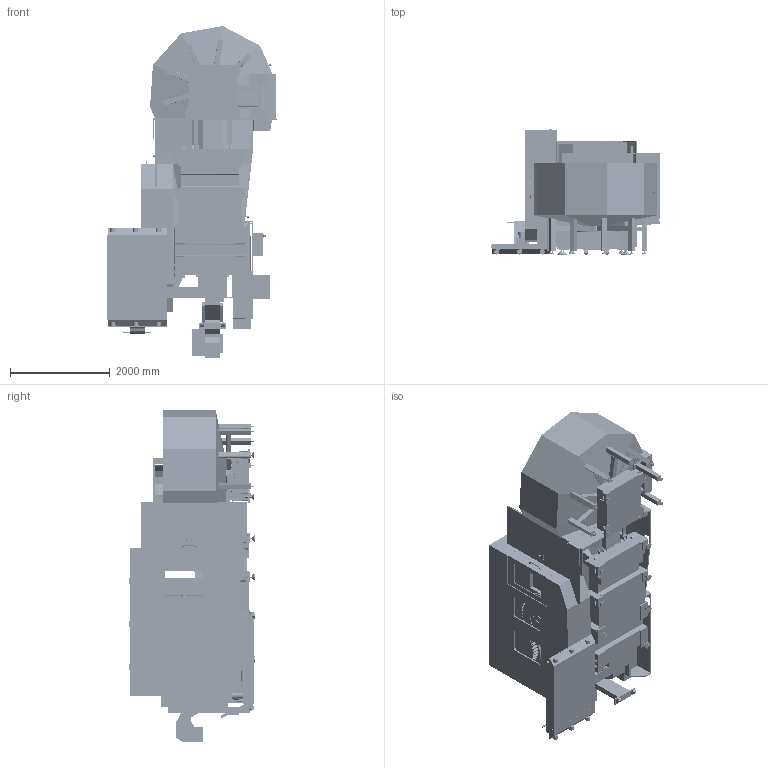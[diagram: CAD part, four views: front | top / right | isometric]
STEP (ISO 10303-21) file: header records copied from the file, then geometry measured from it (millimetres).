
FILE_DESCRIPTION (( 'STEP AP203' ), '1' );
FILE_NAME ('EC-400 w PP_160-6_2026.STEP', '2026-06-05T21:48:40', ( '' ), ( '' ), 'SwSTEP 2.0', 'SolidWorks 2025', '' );
FILE_SCHEMA (( 'CONFIG_CONTROL_DESIGN' ));
Length unit declared in the file: millimetre
Products named in the file (26): EC-400 w PP- 40 Taper Spindle; EC-400 w PP- Tool Changer Arm Up; EC-400 w PP- Pallet H Frame; EC-400 w PP-PP Base Casting; EC-400 w PP_160-6_2026; EC-400 w PP- Control Panel; EC-400 w PP- SMTC 160; EC-400 w PP-PP Enclosure; EC-400 w PP- SMTC 160 enclosure; EC-400 w PP- HSK Spindle; EC-400 w PP- Leveling Pads; EC-400 w PP- Z Axis _ B Axis; EC-400 w PP- Tool Changer Arm Down; EC-400 w PP- Anchor Patterns; EC-400 w PP- Standard Enclosure; EC-400 w PP- X Axis; EC-400 w PP- Chip Conveyor; EC-400 w PP- 95 Gallon Tank; EC-400 w PP- Base; EC-400 w PP- CDF Conveyor; EC-400 w PP- INCH Pallets; EC-400 w PP- Loding Station Reciever; EC-400 w PP- Metric Pallets; EC-400 w PP- Ram Assembly; EC-400 w PP- Y Axis; EC-400 w PP- Loading Station Door
Assembly tree (25 placements, depth 2):
  EC-400 w PP_160-6_2026
    EC-400 w PP- Anchor Patterns
    EC-400 w PP- Leveling Pads
    EC-400 w PP- Base
    EC-400 w PP- X Axis
    EC-400 w PP- Y Axis
    EC-400 w PP- Z Axis _ B Axis
    EC-400 w PP- Pallet H Frame
    EC-400 w PP- 40 Taper Spindle
    EC-400 w PP- HSK Spindle
    EC-400 w PP- Standard Enclosure
    EC-400 w PP- SMTC 160
    EC-400 w PP- SMTC 160 enclosure
    EC-400 w PP- Tool Changer Arm Up
    EC-400 w PP- Tool Changer Arm Down
    EC-400 w PP- Control Panel
    EC-400 w PP- Chip Conveyor
    EC-400 w PP- CDF Conveyor
    EC-400 w PP-PP Base Casting
    EC-400 w PP-PP Enclosure
    EC-400 w PP- Loding Station Reciever
    EC-400 w PP- Loading Station Door
    EC-400 w PP- Ram Assembly
    EC-400 w PP- INCH Pallets
    EC-400 w PP- Metric Pallets
    EC-400 w PP- 95 Gallon Tank
Bounding box: 3395.98 x 2515.55 x 6669.84 mm (x, y, z)
Volume: 6476519788.3 mm3; surface area: 207304452.5 mm2
Topology: 100 solids, 125 shells, 21398 faces, 54434 edges, 33646 vertices
Faces by surface type: plane 9102, cylinder 6914, cone 3855, bspline 944, torus 387, sphere 196
Entity records: 731408 total; most frequent: CARTESIAN_POINT 222206, ORIENTED_EDGE 105912, DIRECTION 105473, EDGE_CURVE 52956, AXIS2_PLACEMENT_3D 37835, VERTEX_POINT 33643, VECTOR 29803, LINE 29803
